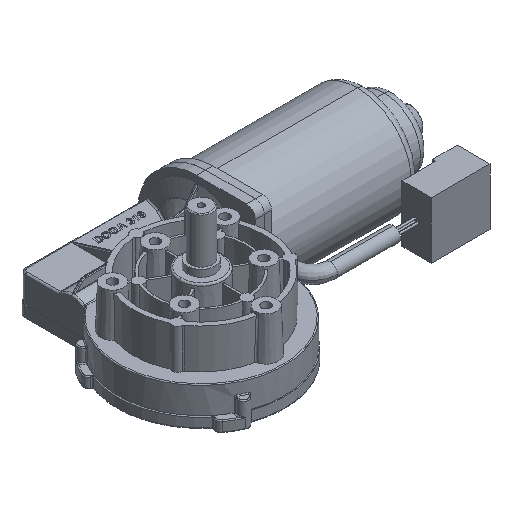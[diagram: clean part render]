
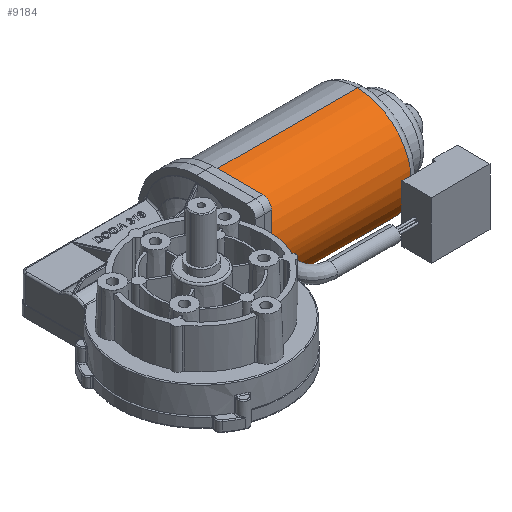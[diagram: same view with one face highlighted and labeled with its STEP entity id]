
A CAD part, isometric view. The second image highlights one B-rep face of the part: STEP entity #9184.
In plain terms, the highlighted cylindrical face has radius 30 mm (diameter 60 mm), a partial arc.
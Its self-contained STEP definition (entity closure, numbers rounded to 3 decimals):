
#273 = ORIENTED_EDGE ( 'NONE', *, *, #10650, .T. ) ;
#279 = VERTEX_POINT ( 'NONE', #17025 ) ;
#335 = CARTESIAN_POINT ( 'NONE',  ( 12.979, -29.673, -4.417 ) ) ;
#727 = CYLINDRICAL_SURFACE ( 'NONE', #21189, 30. ) ;
#855 = CARTESIAN_POINT ( 'NONE',  ( 5.308, -29.607, 4.842 ) ) ;
#1042 = EDGE_CURVE ( 'NONE', #3401, #29747, #31259, .T. ) ;
#1215 = CARTESIAN_POINT ( 'NONE',  ( 5.589, -29.58, -5. ) ) ;
#1677 = ORIENTED_EDGE ( 'NONE', *, *, #16713, .T. ) ;
#1855 = VERTEX_POINT ( 'NONE', #23230 ) ;
#1984 = DIRECTION ( 'NONE',  ( 0., 0., -1. ) ) ;
#2718 = CARTESIAN_POINT ( 'NONE',  ( 5., -29.703, -4.209 ) ) ;
#2822 = CARTESIAN_POINT ( 'NONE',  ( 12.84, -29.63, -4.696 ) ) ;
#2884 = ORIENTED_EDGE ( 'NONE', *, *, #1042, .F. ) ;
#3200 = ORIENTED_EDGE ( 'NONE', *, *, #15156, .T. ) ;
#3336 = CARTESIAN_POINT ( 'NONE',  ( 5., -29.674, 4.419 ) ) ;
#3401 = VERTEX_POINT ( 'NONE', #7917 ) ;
#3513 = B_SPLINE_CURVE_WITH_KNOTS ( 'NONE', 3,
 ( #5213, #20056, #335, #17666, #2822, #20176, #5319, #22633 ),
 .UNSPECIFIED., .F., .F.,
 ( 4, 2, 2, 4 ),
 ( 0., 0., 0.001, 0.001 ),
 .UNSPECIFIED. ) ;
#4119 = AXIS2_PLACEMENT_3D ( 'NONE', #13504, #30849, #15991 ) ;
#4605 = ORIENTED_EDGE ( 'NONE', *, *, #16094, .F. ) ;
#5052 = CARTESIAN_POINT ( 'NONE',  ( 4., 0., 30. ) ) ;
#5213 = CARTESIAN_POINT ( 'NONE',  ( 13., -29.703, -4.209 ) ) ;
#5319 = CARTESIAN_POINT ( 'NONE',  ( 12.411, -29.58, -5. ) ) ;
#5428 = CARTESIAN_POINT ( 'NONE',  ( 12.409, -29.584, 4.98 ) ) ;
#5593 = CIRCLE ( 'NONE', #4119, 30. ) ;
#5655 = VERTEX_POINT ( 'NONE', #26350 ) ;
#5770 = AXIS2_PLACEMENT_3D ( 'NONE', #14190, #21363, #17130 ) ;
#5904 = DIRECTION ( 'NONE',  ( -1., 0., 0. ) ) ;
#5914 = DIRECTION ( 'NONE',  ( 1., 0., 0. ) ) ;
#5937 = EDGE_CURVE ( 'NONE', #18226, #279, #5593, .T. ) ;
#5972 = B_SPLINE_CURVE_WITH_KNOTS ( 'NONE', 3,
 ( #25936, #18345, #28436, #13565, #30907, #16034, #1215, #18559 ),
 .UNSPECIFIED., .F., .F.,
 ( 4, 2, 2, 4 ),
 ( 0., 0., 0.001, 0.001 ),
 .UNSPECIFIED. ) ;
#6526 = LINE ( 'NONE', #5052, #7289 ) ;
#6653 = CARTESIAN_POINT ( 'NONE',  ( 5., 0., 0. ) ) ;
#6755 = CARTESIAN_POINT ( 'NONE',  ( 5.8, -29.58, -5. ) ) ;
#7289 = VECTOR ( 'NONE', #12503, 1000. ) ;
#7809 = CARTESIAN_POINT ( 'NONE',  ( 12.306, -29.58, 5. ) ) ;
#7912 = CARTESIAN_POINT ( 'NONE',  ( 12.692, -29.607, 4.842 ) ) ;
#7917 = CARTESIAN_POINT ( 'NONE',  ( 4., 0., -30. ) ) ;
#7973 = CARTESIAN_POINT ( 'NONE',  ( 13., 0., 0. ) ) ;
#8342 = AXIS2_PLACEMENT_3D ( 'NONE', #6653, #23962, #9121 ) ;
#8812 = VECTOR ( 'NONE', #13510, 1000. ) ;
#9121 = DIRECTION ( 'NONE',  ( 0., 0., -1. ) ) ;
#9184 = ADVANCED_FACE ( 'NONE', ( #27904, #27104 ), #727, .T. ) ;
#9473 = ORIENTED_EDGE ( 'NONE', *, *, #5937, .F. ) ;
#9606 = EDGE_CURVE ( 'NONE', #9813, #19759, #22783, .T. ) ;
#9813 = VERTEX_POINT ( 'NONE', #2718 ) ;
#10104 = CARTESIAN_POINT ( 'NONE',  ( 84., 0., 30. ) ) ;
#10309 = EDGE_CURVE ( 'NONE', #21422, #29353, #28609, .T. ) ;
#10403 = CARTESIAN_POINT ( 'NONE',  ( 13., -29.674, 4.419 ) ) ;
#10489 = DIRECTION ( 'NONE',  ( 0., 0., -1. ) ) ;
#10650 = EDGE_CURVE ( 'NONE', #3401, #279, #29751, .T. ) ;
#11038 = VECTOR ( 'NONE', #5904, 1000. ) ;
#11584 = EDGE_LOOP ( 'NONE', ( #14311, #2884, #273, #9473 ) ) ;
#11809 = LINE ( 'NONE', #15728, #11038 ) ;
#12503 = DIRECTION ( 'NONE',  ( 1., 0., 0. ) ) ;
#12854 = VERTEX_POINT ( 'NONE', #23025 ) ;
#13451 = AXIS2_PLACEMENT_3D ( 'NONE', #7973, #25324, #10489 ) ;
#13504 = CARTESIAN_POINT ( 'NONE',  ( 84., 0., 0. ) ) ;
#13510 = DIRECTION ( 'NONE',  ( -1., 0., 0. ) ) ;
#13565 = CARTESIAN_POINT ( 'NONE',  ( 5.101, -29.644, -4.608 ) ) ;
#14190 = CARTESIAN_POINT ( 'NONE',  ( 4., 0., 0. ) ) ;
#14311 = ORIENTED_EDGE ( 'NONE', *, *, #21277, .F. ) ;
#14685 = ORIENTED_EDGE ( 'NONE', *, *, #15576, .T. ) ;
#14844 = EDGE_CURVE ( 'NONE', #29353, #19759, #24545, .T. ) ;
#15156 = EDGE_CURVE ( 'NONE', #5655, #28727, #11809, .T. ) ;
#15360 = CARTESIAN_POINT ( 'NONE',  ( 5., -29.703, 4.209 ) ) ;
#15576 = EDGE_CURVE ( 'NONE', #21422, #12854, #28939, .T. ) ;
#15676 = CARTESIAN_POINT ( 'NONE',  ( 5.397, -29.597, 4.9 ) ) ;
#15728 = CARTESIAN_POINT ( 'NONE',  ( 9., -29.58, -5. ) ) ;
#15991 = DIRECTION ( 'NONE',  ( 0., 0., -1. ) ) ;
#16034 = CARTESIAN_POINT ( 'NONE',  ( 5.382, -29.595, -4.914 ) ) ;
#16094 = EDGE_CURVE ( 'NONE', #1855, #12854, #16802, .T. ) ;
#16344 = ORIENTED_EDGE ( 'NONE', *, *, #27919, .F. ) ;
#16602 = CARTESIAN_POINT ( 'NONE',  ( 4., 0., 30. ) ) ;
#16713 = EDGE_CURVE ( 'NONE', #1855, #5655, #3513, .T. ) ;
#16802 = CIRCLE ( 'NONE', #13451, 30. ) ;
#17025 = CARTESIAN_POINT ( 'NONE',  ( 84., 0., -30. ) ) ;
#17130 = DIRECTION ( 'NONE',  ( 0., 0., -1. ) ) ;
#17666 = CARTESIAN_POINT ( 'NONE',  ( 12.899, -29.644, -4.608 ) ) ;
#18084 = CARTESIAN_POINT ( 'NONE',  ( 5.694, -29.58, 5. ) ) ;
#18184 = DIRECTION ( 'NONE',  ( 1., 0., 0. ) ) ;
#18197 = CARTESIAN_POINT ( 'NONE',  ( 5.087, -29.642, 4.623 ) ) ;
#18226 = VERTEX_POINT ( 'NONE', #10104 ) ;
#18345 = CARTESIAN_POINT ( 'NONE',  ( 5., -29.688, -4.314 ) ) ;
#18559 = CARTESIAN_POINT ( 'NONE',  ( 5.8, -29.58, -5. ) ) ;
#18688 = CARTESIAN_POINT ( 'NONE',  ( 12.2, -29.58, 5. ) ) ;
#19335 = CARTESIAN_POINT ( 'NONE',  ( 4., 0., 0. ) ) ;
#19759 = VERTEX_POINT ( 'NONE', #15360 ) ;
#20056 = CARTESIAN_POINT ( 'NONE',  ( 13., -29.688, -4.314 ) ) ;
#20176 = CARTESIAN_POINT ( 'NONE',  ( 12.618, -29.595, -4.914 ) ) ;
#20677 = CARTESIAN_POINT ( 'NONE',  ( 5., -29.703, 4.209 ) ) ;
#20885 = CARTESIAN_POINT ( 'NONE',  ( 44., -29.58, 5. ) ) ;
#21087 = CARTESIAN_POINT ( 'NONE',  ( 5.8, -29.58, 5. ) ) ;
#21189 = AXIS2_PLACEMENT_3D ( 'NONE', #19335, #18184, #1984 ) ;
#21277 = EDGE_CURVE ( 'NONE', #29747, #18226, #6526, .T. ) ;
#21314 = ORIENTED_EDGE ( 'NONE', *, *, #14844, .F. ) ;
#21363 = DIRECTION ( 'NONE',  ( -1., 0., 0. ) ) ;
#21422 = VERTEX_POINT ( 'NONE', #18688 ) ;
#22337 = VECTOR ( 'NONE', #5914, 1000. ) ;
#22633 = CARTESIAN_POINT ( 'NONE',  ( 12.2, -29.58, -5. ) ) ;
#22728 = CARTESIAN_POINT ( 'NONE',  ( 12.603, -29.597, 4.9 ) ) ;
#22783 = CIRCLE ( 'NONE', #8342, 30. ) ;
#23025 = CARTESIAN_POINT ( 'NONE',  ( 13., -29.703, 4.209 ) ) ;
#23230 = CARTESIAN_POINT ( 'NONE',  ( 13., -29.703, -4.209 ) ) ;
#23962 = DIRECTION ( 'NONE',  ( -1., 0., 0. ) ) ;
#24545 = B_SPLINE_CURVE_WITH_KNOTS ( 'NONE', 3,
 ( #30559, #18084, #28083, #15676, #855, #18197, #3336, #20677 ),
 .UNSPECIFIED., .F., .F.,
 ( 4, 2, 2, 4 ),
 ( 0., 0., 0.001, 0.001 ),
 .UNSPECIFIED. ) ;
#25141 = CARTESIAN_POINT ( 'NONE',  ( 12.2, -29.58, 5. ) ) ;
#25253 = CARTESIAN_POINT ( 'NONE',  ( 12.913, -29.642, 4.623 ) ) ;
#25324 = DIRECTION ( 'NONE',  ( -1., 0., 0. ) ) ;
#25936 = CARTESIAN_POINT ( 'NONE',  ( 5., -29.703, -4.209 ) ) ;
#26350 = CARTESIAN_POINT ( 'NONE',  ( 12.2, -29.58, -5. ) ) ;
#27104 = FACE_BOUND ( 'NONE', #29721, .T. ) ;
#27115 = ORIENTED_EDGE ( 'NONE', *, *, #9606, .T. ) ;
#27483 = ORIENTED_EDGE ( 'NONE', *, *, #10309, .F. ) ;
#27757 = CARTESIAN_POINT ( 'NONE',  ( 13., -29.703, 4.209 ) ) ;
#27904 = FACE_OUTER_BOUND ( 'NONE', #11584, .T. ) ;
#27919 = EDGE_CURVE ( 'NONE', #9813, #28727, #5972, .T. ) ;
#28083 = CARTESIAN_POINT ( 'NONE',  ( 5.591, -29.584, 4.98 ) ) ;
#28436 = CARTESIAN_POINT ( 'NONE',  ( 5.021, -29.673, -4.417 ) ) ;
#28609 = LINE ( 'NONE', #20885, #8812 ) ;
#28727 = VERTEX_POINT ( 'NONE', #6755 ) ;
#28939 = B_SPLINE_CURVE_WITH_KNOTS ( 'NONE', 3,
 ( #25141, #7809, #5428, #22728, #7912, #25253, #10403, #27757 ),
 .UNSPECIFIED., .F., .F.,
 ( 4, 2, 2, 4 ),
 ( 0., 0., 0.001, 0.001 ),
 .UNSPECIFIED. ) ;
#29353 = VERTEX_POINT ( 'NONE', #21087 ) ;
#29721 = EDGE_LOOP ( 'NONE', ( #1677, #3200, #16344, #27115, #21314, #27483, #14685, #4605 ) ) ;
#29747 = VERTEX_POINT ( 'NONE', #16602 ) ;
#29751 = LINE ( 'NONE', #30620, #22337 ) ;
#30559 = CARTESIAN_POINT ( 'NONE',  ( 5.8, -29.58, 5. ) ) ;
#30620 = CARTESIAN_POINT ( 'NONE',  ( 4., 0., -30. ) ) ;
#30849 = DIRECTION ( 'NONE',  ( 1., 0., 0. ) ) ;
#30907 = CARTESIAN_POINT ( 'NONE',  ( 5.16, -29.63, -4.696 ) ) ;
#31259 = CIRCLE ( 'NONE', #5770, 30. ) ;
